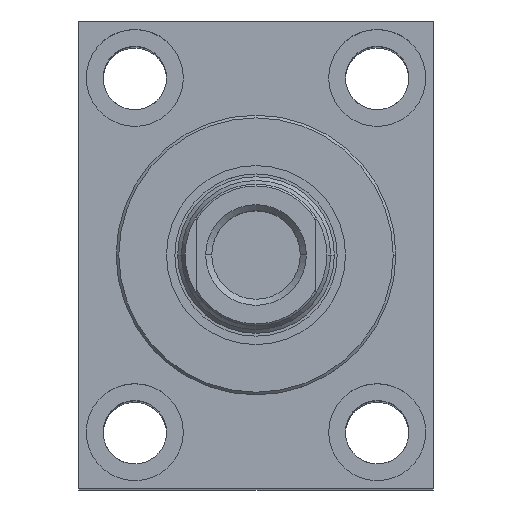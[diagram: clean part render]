
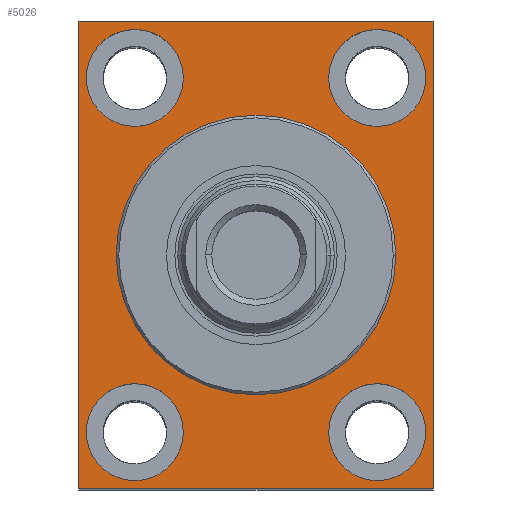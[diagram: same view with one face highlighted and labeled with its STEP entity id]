
A CAD part, top view. The second image highlights one B-rep face of the part: STEP entity #5026.
In plain terms, the highlighted planar face has unit normal (0, 0, 1).
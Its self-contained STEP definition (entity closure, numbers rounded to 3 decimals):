
#26 = AXIS2_PLACEMENT_3D ( 'NONE', #4031, #6539, #1595 ) ;
#215 = LINE ( 'NONE', #3182, #7205 ) ;
#263 = EDGE_LOOP ( 'NONE', ( #3173, #1675, #2395, #1691 ) ) ;
#352 = FACE_BOUND ( 'NONE', #3087, .T. ) ;
#422 = ORIENTED_EDGE ( 'NONE', *, *, #6826, .T. ) ;
#451 = DIRECTION ( 'NONE',  ( 0., 0., -1. ) ) ;
#502 = CARTESIAN_POINT ( 'NONE',  ( 47.5, 62.5, -14. ) ) ;
#700 = LINE ( 'NONE', #6430, #879 ) ;
#719 = CIRCLE ( 'NONE', #7693, 13. ) ;
#782 = EDGE_CURVE ( 'NONE', #6582, #3466, #5796, .T. ) ;
#823 = DIRECTION ( 'NONE',  ( 0., -1., 0. ) ) ;
#857 = AXIS2_PLACEMENT_3D ( 'NONE', #7890, #2246, #4740 ) ;
#879 = VECTOR ( 'NONE', #823, 1000. ) ;
#979 = VERTEX_POINT ( 'NONE', #1714 ) ;
#1006 = ORIENTED_EDGE ( 'NONE', *, *, #2974, .T. ) ;
#1029 = CIRCLE ( 'NONE', #1814, 37.501 ) ;
#1031 = DIRECTION ( 'NONE',  ( -1., 0., 0. ) ) ;
#1044 = ORIENTED_EDGE ( 'NONE', *, *, #7625, .T. ) ;
#1088 = EDGE_CURVE ( 'NONE', #1810, #979, #4780, .T. ) ;
#1252 = AXIS2_PLACEMENT_3D ( 'NONE', #4597, #3918, #6471 ) ;
#1394 = DIRECTION ( 'NONE',  ( -1., 0., 0. ) ) ;
#1457 = EDGE_LOOP ( 'NONE', ( #7992, #7979 ) ) ;
#1561 = CARTESIAN_POINT ( 'NONE',  ( 47.5, -62.5, -14. ) ) ;
#1584 = FACE_BOUND ( 'NONE', #2890, .T. ) ;
#1595 = DIRECTION ( 'NONE',  ( -1., 0., 0. ) ) ;
#1614 = CARTESIAN_POINT ( 'NONE',  ( 19.5, -47.5, -14. ) ) ;
#1640 = VERTEX_POINT ( 'NONE', #7379 ) ;
#1675 = ORIENTED_EDGE ( 'NONE', *, *, #6686, .T. ) ;
#1691 = ORIENTED_EDGE ( 'NONE', *, *, #782, .T. ) ;
#1699 = AXIS2_PLACEMENT_3D ( 'NONE', #4443, #6990, #3853 ) ;
#1714 = CARTESIAN_POINT ( 'NONE',  ( 19.5, 47.5, -14. ) ) ;
#1810 = VERTEX_POINT ( 'NONE', #5284 ) ;
#1814 = AXIS2_PLACEMENT_3D ( 'NONE', #3018, #451, #2941 ) ;
#1815 = EDGE_CURVE ( 'NONE', #4600, #4314, #6736, .T. ) ;
#1831 = VERTEX_POINT ( 'NONE', #2085 ) ;
#2045 = AXIS2_PLACEMENT_3D ( 'NONE', #7062, #3888, #5802 ) ;
#2063 = EDGE_LOOP ( 'NONE', ( #3804, #2103 ) ) ;
#2085 = CARTESIAN_POINT ( 'NONE',  ( -45.5, -47.5, -14. ) ) ;
#2103 = ORIENTED_EDGE ( 'NONE', *, *, #6840, .T. ) ;
#2246 = DIRECTION ( 'NONE',  ( 0., 0., 1. ) ) ;
#2273 = DIRECTION ( 'NONE',  ( -1., 0., 0. ) ) ;
#2277 = EDGE_CURVE ( 'NONE', #4865, #3454, #5232, .T. ) ;
#2299 = VECTOR ( 'NONE', #3305, 1000. ) ;
#2395 = ORIENTED_EDGE ( 'NONE', *, *, #4093, .T. ) ;
#2536 = CARTESIAN_POINT ( 'NONE',  ( -32.5, -47.5, -14. ) ) ;
#2562 = CIRCLE ( 'NONE', #2045, 13. ) ;
#2828 = VERTEX_POINT ( 'NONE', #1561 ) ;
#2845 = FACE_BOUND ( 'NONE', #1457, .T. ) ;
#2890 = EDGE_LOOP ( 'NONE', ( #422, #5695 ) ) ;
#2941 = DIRECTION ( 'NONE',  ( 0., 1., 0. ) ) ;
#2955 = CARTESIAN_POINT ( 'NONE',  ( -19.5, 47.5, -14. ) ) ;
#2974 = EDGE_CURVE ( 'NONE', #3454, #4865, #1029, .T. ) ;
#3018 = CARTESIAN_POINT ( 'NONE',  ( 0., 0., -14. ) ) ;
#3087 = EDGE_LOOP ( 'NONE', ( #6648, #1006 ) ) ;
#3125 = DIRECTION ( 'NONE',  ( 0., 0., -1. ) ) ;
#3160 = LINE ( 'NONE', #7018, #5053 ) ;
#3173 = ORIENTED_EDGE ( 'NONE', *, *, #6664, .T. ) ;
#3182 = CARTESIAN_POINT ( 'NONE',  ( -47.5, -62.5, -14. ) ) ;
#3231 = CARTESIAN_POINT ( 'NONE',  ( 47.5, 62.5, -14. ) ) ;
#3305 = DIRECTION ( 'NONE',  ( -1., 0., 0. ) ) ;
#3454 = VERTEX_POINT ( 'NONE', #7367 ) ;
#3466 = VERTEX_POINT ( 'NONE', #5414 ) ;
#3503 = CARTESIAN_POINT ( 'NONE',  ( -45.5, 47.5, -14. ) ) ;
#3750 = AXIS2_PLACEMENT_3D ( 'NONE', #4632, #5872, #7300 ) ;
#3804 = ORIENTED_EDGE ( 'NONE', *, *, #1815, .T. ) ;
#3817 = CARTESIAN_POINT ( 'NONE',  ( 0., 37.501, -14. ) ) ;
#3831 = DIRECTION ( 'NONE',  ( 1., 0., 0. ) ) ;
#3853 = DIRECTION ( 'NONE',  ( 0., 1., 0. ) ) ;
#3888 = DIRECTION ( 'NONE',  ( 0., 0., -1. ) ) ;
#3918 = DIRECTION ( 'NONE',  ( 0., 0., -1. ) ) ;
#3949 = VERTEX_POINT ( 'NONE', #4820 ) ;
#4031 = CARTESIAN_POINT ( 'NONE',  ( -32.5, 47.5, -14. ) ) ;
#4093 = EDGE_CURVE ( 'NONE', #2828, #6582, #3160, .T. ) ;
#4127 = CARTESIAN_POINT ( 'NONE',  ( -47.5, -62.5, -14. ) ) ;
#4225 = EDGE_CURVE ( 'NONE', #1831, #1640, #2562, .T. ) ;
#4314 = VERTEX_POINT ( 'NONE', #2955 ) ;
#4443 = CARTESIAN_POINT ( 'NONE',  ( 0., 0., -14. ) ) ;
#4597 = CARTESIAN_POINT ( 'NONE',  ( 32.5, 47.5, -14. ) ) ;
#4600 = VERTEX_POINT ( 'NONE', #3503 ) ;
#4632 = CARTESIAN_POINT ( 'NONE',  ( 32.5, -47.5, -14. ) ) ;
#4699 = FACE_BOUND ( 'NONE', #2063, .T. ) ;
#4740 = DIRECTION ( 'NONE',  ( 1., 0., 0. ) ) ;
#4780 = CIRCLE ( 'NONE', #1252, 13. ) ;
#4820 = CARTESIAN_POINT ( 'NONE',  ( 45.5, -47.5, -14. ) ) ;
#4831 = AXIS2_PLACEMENT_3D ( 'NONE', #6768, #6644, #2273 ) ;
#4865 = VERTEX_POINT ( 'NONE', #3817 ) ;
#5026 = ADVANCED_FACE ( 'NONE', ( #352, #4699, #7241, #1584, #2845, #6619 ), #5364, .T. ) ;
#5053 = VECTOR ( 'NONE', #5721, 1000. ) ;
#5061 = DIRECTION ( 'NONE',  ( -1., 0., 0. ) ) ;
#5076 = CIRCLE ( 'NONE', #5348, 13. ) ;
#5111 = CARTESIAN_POINT ( 'NONE',  ( 32.5, -47.5, -14. ) ) ;
#5232 = CIRCLE ( 'NONE', #1699, 37.501 ) ;
#5260 = EDGE_CURVE ( 'NONE', #3949, #5483, #719, .T. ) ;
#5284 = CARTESIAN_POINT ( 'NONE',  ( 45.5, 47.5, -14. ) ) ;
#5348 = AXIS2_PLACEMENT_3D ( 'NONE', #2536, #6961, #1394 ) ;
#5364 = PLANE ( 'NONE',  #857 ) ;
#5414 = CARTESIAN_POINT ( 'NONE',  ( -47.5, 62.5, -14. ) ) ;
#5483 = VERTEX_POINT ( 'NONE', #1614 ) ;
#5609 = AXIS2_PLACEMENT_3D ( 'NONE', #6003, #6683, #1031 ) ;
#5695 = ORIENTED_EDGE ( 'NONE', *, *, #5260, .T. ) ;
#5721 = DIRECTION ( 'NONE',  ( 0., 1., 0. ) ) ;
#5796 = LINE ( 'NONE', #3231, #2299 ) ;
#5802 = DIRECTION ( 'NONE',  ( -1., 0., 0. ) ) ;
#5872 = DIRECTION ( 'NONE',  ( 0., 0., -1. ) ) ;
#6003 = CARTESIAN_POINT ( 'NONE',  ( -32.5, 47.5, -14. ) ) ;
#6430 = CARTESIAN_POINT ( 'NONE',  ( -47.5, 62.5, -14. ) ) ;
#6471 = DIRECTION ( 'NONE',  ( -1., 0., 0. ) ) ;
#6539 = DIRECTION ( 'NONE',  ( 0., 0., -1. ) ) ;
#6582 = VERTEX_POINT ( 'NONE', #502 ) ;
#6619 = FACE_OUTER_BOUND ( 'NONE', #263, .T. ) ;
#6644 = DIRECTION ( 'NONE',  ( 0., 0., -1. ) ) ;
#6648 = ORIENTED_EDGE ( 'NONE', *, *, #2277, .T. ) ;
#6664 = EDGE_CURVE ( 'NONE', #3466, #6761, #700, .T. ) ;
#6683 = DIRECTION ( 'NONE',  ( 0., 0., -1. ) ) ;
#6686 = EDGE_CURVE ( 'NONE', #6761, #2828, #215, .T. ) ;
#6736 = CIRCLE ( 'NONE', #26, 13. ) ;
#6761 = VERTEX_POINT ( 'NONE', #4127 ) ;
#6768 = CARTESIAN_POINT ( 'NONE',  ( 32.5, 47.5, -14. ) ) ;
#6826 = EDGE_CURVE ( 'NONE', #5483, #3949, #7341, .T. ) ;
#6840 = EDGE_CURVE ( 'NONE', #4314, #4600, #7859, .T. ) ;
#6956 = ORIENTED_EDGE ( 'NONE', *, *, #1088, .T. ) ;
#6961 = DIRECTION ( 'NONE',  ( 0., 0., -1. ) ) ;
#6990 = DIRECTION ( 'NONE',  ( 0., 0., -1. ) ) ;
#7018 = CARTESIAN_POINT ( 'NONE',  ( 47.5, -62.5, -14. ) ) ;
#7062 = CARTESIAN_POINT ( 'NONE',  ( -32.5, -47.5, -14. ) ) ;
#7068 = EDGE_CURVE ( 'NONE', #1640, #1831, #5076, .T. ) ;
#7176 = EDGE_LOOP ( 'NONE', ( #1044, #6956 ) ) ;
#7205 = VECTOR ( 'NONE', #3831, 1000. ) ;
#7241 = FACE_BOUND ( 'NONE', #7176, .T. ) ;
#7300 = DIRECTION ( 'NONE',  ( -1., 0., 0. ) ) ;
#7341 = CIRCLE ( 'NONE', #3750, 13. ) ;
#7352 = CIRCLE ( 'NONE', #4831, 13. ) ;
#7367 = CARTESIAN_POINT ( 'NONE',  ( 0., -37.501, -14. ) ) ;
#7379 = CARTESIAN_POINT ( 'NONE',  ( -19.5, -47.5, -14. ) ) ;
#7625 = EDGE_CURVE ( 'NONE', #979, #1810, #7352, .T. ) ;
#7693 = AXIS2_PLACEMENT_3D ( 'NONE', #5111, #3125, #5061 ) ;
#7859 = CIRCLE ( 'NONE', #5609, 13. ) ;
#7890 = CARTESIAN_POINT ( 'NONE',  ( 0., 0., -14. ) ) ;
#7979 = ORIENTED_EDGE ( 'NONE', *, *, #7068, .T. ) ;
#7992 = ORIENTED_EDGE ( 'NONE', *, *, #4225, .T. ) ;
